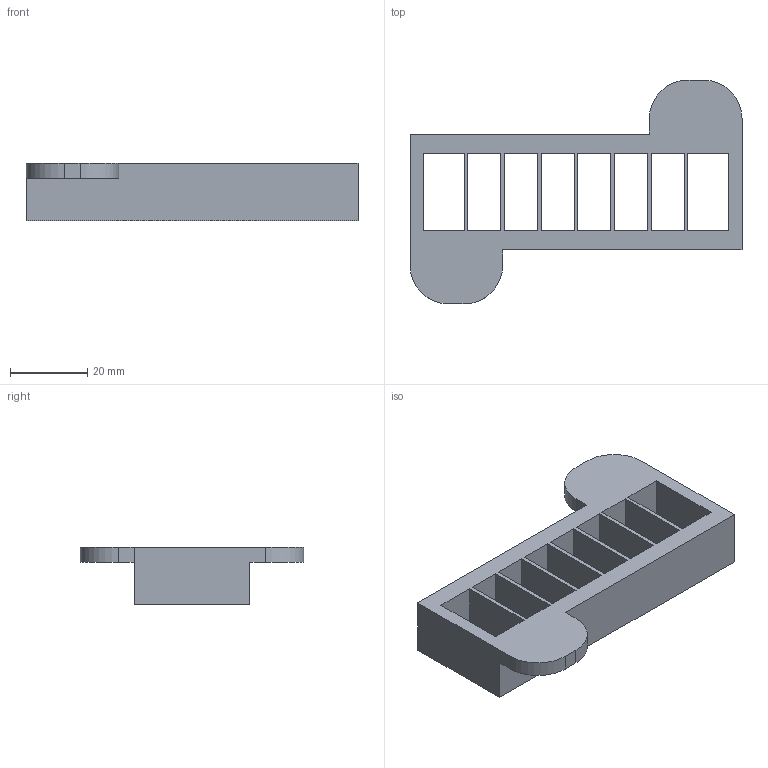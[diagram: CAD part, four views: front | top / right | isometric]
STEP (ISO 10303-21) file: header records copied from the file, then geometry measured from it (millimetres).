
FILE_DESCRIPTION(/* description */ (''),/* implementation_level */ '2;1');
FILE_NAME(/* name */ 'Cavity8CT v1.step',/* time_stamp */ '2024-07-04T14:21:22+05:30',/* author */ (''),/* organization */ (''),/* preprocessor_version */ 'ST-DEVELOPER v20',/* originating_system */ 'Autodesk Translation Framework v13.14.0.145',/* authorisation */ '');
FILE_SCHEMA (('AUTOMOTIVE_DESIGN { 1 0 10303 214 3 1 1 }'));
Length unit declared in the file: millimetre
Products named in the file (1): Cavity8CT
Bounding box: 86 x 58 x 15 mm (x, y, z)
Volume: 19024.6 mm3; surface area: 13249.6 mm2
Topology: 1 solids, 1 shells, 41 faces, 138 edges, 92 vertices
Faces by surface type: plane 37, cylinder 4
Entity records: 1545 total; most frequent: ORIENTED_EDGE 276, CARTESIAN_POINT 272, DIRECTION 230, EDGE_CURVE 138, LINE 130, VECTOR 130, VERTEX_POINT 92, EDGE_LOOP 50
